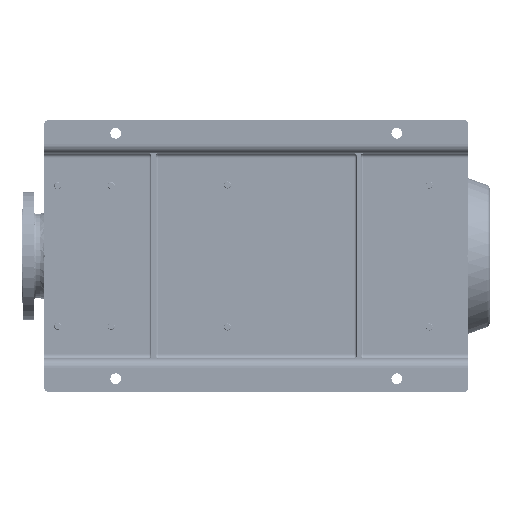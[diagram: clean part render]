
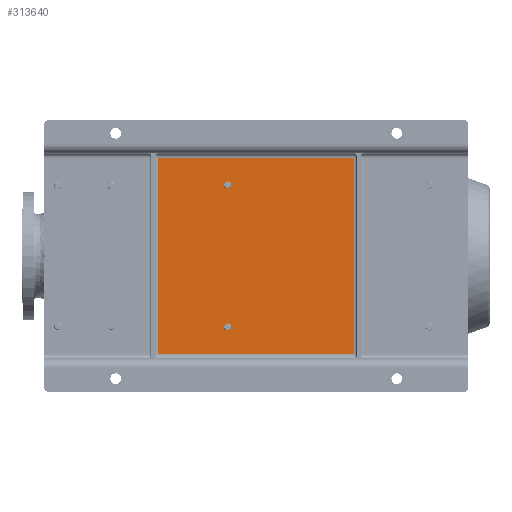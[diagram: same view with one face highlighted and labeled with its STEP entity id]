
A CAD part, front view. The second image highlights one B-rep face of the part: STEP entity #313640.
In plain terms, the highlighted planar face has unit normal (0, -1, 0).
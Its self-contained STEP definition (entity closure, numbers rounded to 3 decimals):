
#341 = CARTESIAN_POINT ( 'NONE',  ( 146., 65., -418.65 ) ) ;
#6913 = CARTESIAN_POINT ( 'NONE',  ( 525., 65., -250. ) ) ;
#7257 = VERTEX_POINT ( 'NONE', #71290 ) ;
#10986 = CARTESIAN_POINT ( 'NONE',  ( 464., 65., -410.65 ) ) ;
#13408 = VECTOR ( 'NONE', #266012, 1000. ) ;
#23527 = ORIENTED_EDGE ( 'NONE', *, *, #258158, .T. ) ;
#28693 = EDGE_LOOP ( 'NONE', ( #160567, #44099, #284694, #23527 ) ) ;
#33845 = DIRECTION ( 'NONE',  ( 0., 1., 0. ) ) ;
#42246 = LINE ( 'NONE', #146768, #77754 ) ;
#44099 = ORIENTED_EDGE ( 'NONE', *, *, #174942, .T. ) ;
#49994 = CIRCLE ( 'NONE', #293210, 8. ) ;
#52248 = CIRCLE ( 'NONE', #259834, 8. ) ;
#53496 = VERTEX_POINT ( 'NONE', #102877 ) ;
#57757 = VERTEX_POINT ( 'NONE', #208260 ) ;
#58792 = EDGE_LOOP ( 'NONE', ( #144394, #118744 ) ) ;
#59864 = VERTEX_POINT ( 'NONE', #341 ) ;
#61854 = VERTEX_POINT ( 'NONE', #279156 ) ;
#63307 = DIRECTION ( 'NONE',  ( 0., 0., 1. ) ) ;
#63847 = EDGE_CURVE ( 'NONE', #232757, #57757, #294092, .T. ) ;
#66157 = CARTESIAN_POINT ( 'NONE',  ( 464., 65., -402.65 ) ) ;
#70235 = CARTESIAN_POINT ( 'NONE',  ( 464., 65., -410.65 ) ) ;
#71290 = CARTESIAN_POINT ( 'NONE',  ( 85., 65., -695. ) ) ;
#74515 = FACE_BOUND ( 'NONE', #219355, .T. ) ;
#77754 = VECTOR ( 'NONE', #100743, 1000. ) ;
#82871 = EDGE_CURVE ( 'NONE', #216202, #61854, #179785, .T. ) ;
#83266 = LINE ( 'NONE', #159300, #311861 ) ;
#92149 = EDGE_CURVE ( 'NONE', #59864, #166426, #49994, .T. ) ;
#100743 = DIRECTION ( 'NONE',  ( 0., 0., -1. ) ) ;
#102315 = ORIENTED_EDGE ( 'NONE', *, *, #92149, .T. ) ;
#102877 = CARTESIAN_POINT ( 'NONE',  ( 85., 65., -255. ) ) ;
#103677 = DIRECTION ( 'NONE',  ( 0., 0., 1. ) ) ;
#108854 = DIRECTION ( 'NONE',  ( 0., 0., -1. ) ) ;
#114698 = DIRECTION ( 'NONE',  ( 0., 1., 0. ) ) ;
#118744 = ORIENTED_EDGE ( 'NONE', *, *, #282471, .T. ) ;
#125235 = CARTESIAN_POINT ( 'NONE',  ( 75., 65., -950. ) ) ;
#129052 = CARTESIAN_POINT ( 'NONE',  ( 146., 65., -410.65 ) ) ;
#129661 = ORIENTED_EDGE ( 'NONE', *, *, #196639, .T. ) ;
#135605 = CARTESIAN_POINT ( 'NONE',  ( 146., 65., -402.65 ) ) ;
#136718 = CIRCLE ( 'NONE', #141685, 8. ) ;
#141685 = AXIS2_PLACEMENT_3D ( 'NONE', #70235, #114698, #308176 ) ;
#144394 = ORIENTED_EDGE ( 'NONE', *, *, #82871, .T. ) ;
#146768 = CARTESIAN_POINT ( 'NONE',  ( 85., 65., -700. ) ) ;
#154376 = DIRECTION ( 'NONE',  ( 0., 0., -1. ) ) ;
#159300 = CARTESIAN_POINT ( 'NONE',  ( 75., 65., -255. ) ) ;
#159399 = AXIS2_PLACEMENT_3D ( 'NONE', #10986, #258321, #63307 ) ;
#160567 = ORIENTED_EDGE ( 'NONE', *, *, #213522, .T. ) ;
#166426 = VERTEX_POINT ( 'NONE', #135605 ) ;
#174942 = EDGE_CURVE ( 'NONE', #7257, #232757, #219942, .T. ) ;
#175913 = PLANE ( 'NONE',  #266528 ) ;
#179785 = CIRCLE ( 'NONE', #159399, 8. ) ;
#196607 = FACE_BOUND ( 'NONE', #58792, .T. ) ;
#196639 = EDGE_CURVE ( 'NONE', #166426, #59864, #52248, .T. ) ;
#201294 = DIRECTION ( 'NONE',  ( 0., 0., -1. ) ) ;
#203903 = CARTESIAN_POINT ( 'NONE',  ( 525., 65., -695. ) ) ;
#208260 = CARTESIAN_POINT ( 'NONE',  ( 525., 65., -255. ) ) ;
#213522 = EDGE_CURVE ( 'NONE', #53496, #7257, #42246, .T. ) ;
#216202 = VERTEX_POINT ( 'NONE', #66157 ) ;
#219355 = EDGE_LOOP ( 'NONE', ( #129661, #102315 ) ) ;
#219942 = LINE ( 'NONE', #239062, #13408 ) ;
#232757 = VERTEX_POINT ( 'NONE', #203903 ) ;
#239062 = CARTESIAN_POINT ( 'NONE',  ( 75., 65., -695. ) ) ;
#258158 = EDGE_CURVE ( 'NONE', #57757, #53496, #83266, .T. ) ;
#258321 = DIRECTION ( 'NONE',  ( 0., 1., 0. ) ) ;
#259834 = AXIS2_PLACEMENT_3D ( 'NONE', #129052, #33845, #154376 ) ;
#266012 = DIRECTION ( 'NONE',  ( 1., 0., 0. ) ) ;
#266528 = AXIS2_PLACEMENT_3D ( 'NONE', #125235, #272693, #201294 ) ;
#272693 = DIRECTION ( 'NONE',  ( 0., -1., 0. ) ) ;
#277011 = DIRECTION ( 'NONE',  ( 0., 1., 0. ) ) ;
#279156 = CARTESIAN_POINT ( 'NONE',  ( 464., 65., -418.65 ) ) ;
#282471 = EDGE_CURVE ( 'NONE', #61854, #216202, #136718, .T. ) ;
#284694 = ORIENTED_EDGE ( 'NONE', *, *, #63847, .T. ) ;
#293210 = AXIS2_PLACEMENT_3D ( 'NONE', #302357, #277011, #108854 ) ;
#294092 = LINE ( 'NONE', #6913, #301701 ) ;
#294957 = FACE_OUTER_BOUND ( 'NONE', #28693, .T. ) ;
#297441 = DIRECTION ( 'NONE',  ( -1., 0., 0. ) ) ;
#301701 = VECTOR ( 'NONE', #103677, 1000. ) ;
#302357 = CARTESIAN_POINT ( 'NONE',  ( 146., 65., -410.65 ) ) ;
#308176 = DIRECTION ( 'NONE',  ( 0., 0., 1. ) ) ;
#311861 = VECTOR ( 'NONE', #297441, 1000. ) ;
#313640 = ADVANCED_FACE ( 'NONE', ( #196607, #74515, #294957 ), #175913, .T. ) ;
